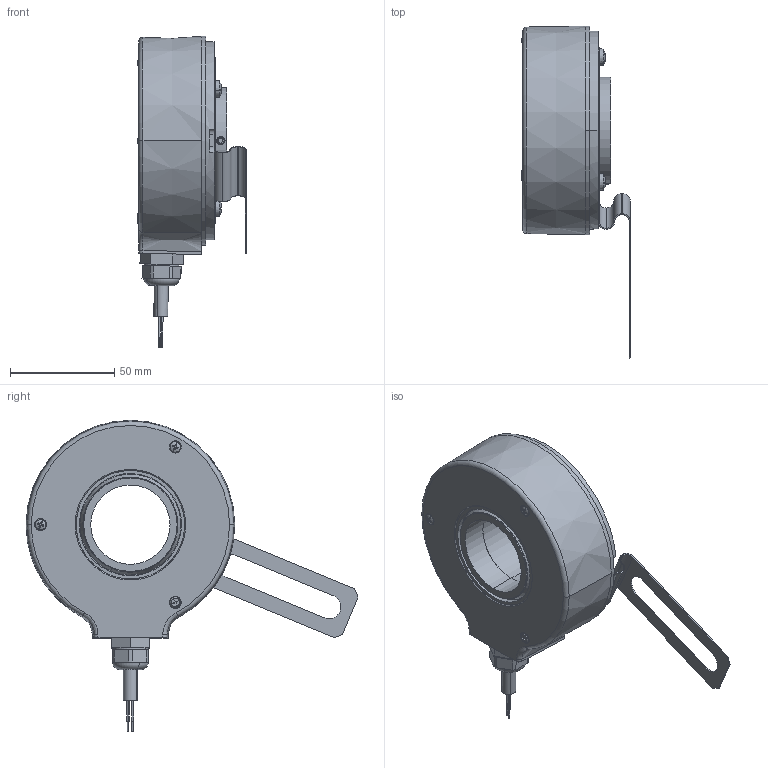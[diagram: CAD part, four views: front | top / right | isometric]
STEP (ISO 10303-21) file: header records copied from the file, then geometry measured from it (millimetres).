
FILE_DESCRIPTION (( 'STEP AP203' ), '1' );
FILE_NAME ('8.A020.52X1.STEP', '2013-12-11T08:01:33', ( 'LauferA' ), ( 'Microsoft' ), 'SwSTEP 2.0', 'SolidWorks 2013', '' );
FILE_SCHEMA (( 'CONFIG_CONTROL_DESIGN' ));
Length unit declared in the file: millimetre
Products named in the file (1): 8.A020.52X1
Bounding box: 52.1 x 159.03 x 149.2 mm (x, y, z)
Volume: 150047.6 mm3; surface area: 96255.4 mm2
Topology: 20 solids, 20 shells, 739 faces, 1870 edges, 1155 vertices
Faces by surface type: cylinder 263, plane 251, cone 119, sphere 58, torus 44, bspline 4
Entity records: 23819 total; most frequent: CARTESIAN_POINT 6296, DIRECTION 3867, ORIENTED_EDGE 3432, EDGE_CURVE 1716, AXIS2_PLACEMENT_3D 1571, VERTEX_POINT 1083, EDGE_LOOP 917, CIRCLE 835
